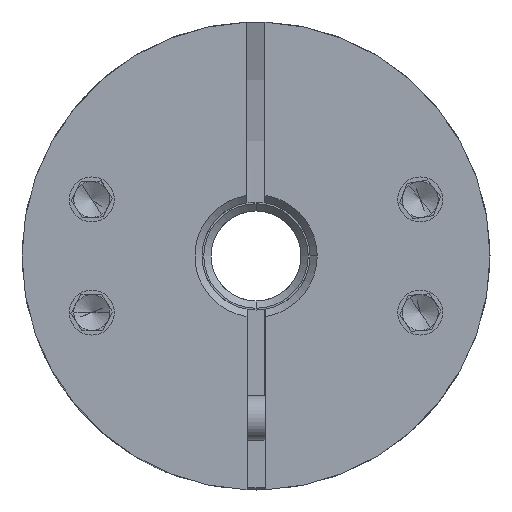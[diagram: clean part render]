
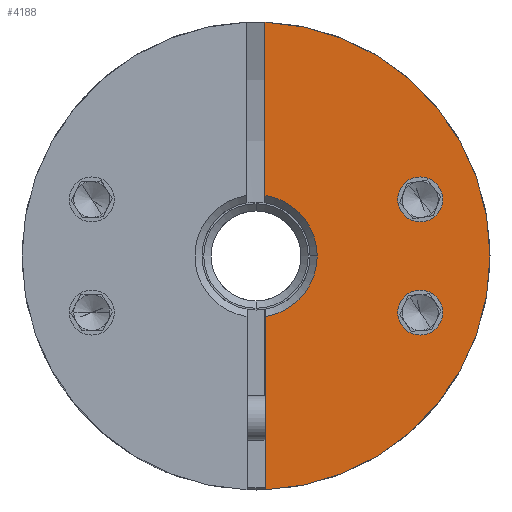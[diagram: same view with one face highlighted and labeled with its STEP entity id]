
A CAD part, front view. The second image highlights one B-rep face of the part: STEP entity #4188.
In plain terms, the highlighted planar face has unit normal (0, -1, 0).
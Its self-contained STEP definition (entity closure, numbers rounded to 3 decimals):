
#97 = ORIENTED_EDGE ( 'NONE', *, *, #1533, .T. ) ;
#435 = EDGE_CURVE ( 'NONE', #8124, #19663, #3960, .T. ) ;
#646 = VERTEX_POINT ( 'NONE', #15369 ) ;
#677 = ORIENTED_EDGE ( 'NONE', *, *, #14537, .T. ) ;
#786 = CARTESIAN_POINT ( 'NONE',  ( 9.63, -26.289, 3.142 ) ) ;
#1039 = FACE_BOUND ( 'NONE', #21388, .T. ) ;
#1363 = EDGE_CURVE ( 'NONE', #10590, #21803, #14868, .T. ) ;
#1533 = EDGE_CURVE ( 'NONE', #11754, #10590, #20388, .T. ) ;
#1634 = DIRECTION ( 'NONE',  ( 1., 0., 0. ) ) ;
#1780 = EDGE_CURVE ( 'NONE', #4828, #3157, #22002, .T. ) ;
#1945 = DIRECTION ( 'NONE',  ( 0., 1., 0. ) ) ;
#2082 = DIRECTION ( 'NONE',  ( 0., -1., 0. ) ) ;
#2331 = AXIS2_PLACEMENT_3D ( 'NONE', #15015, #7758, #4144 ) ;
#2782 = CARTESIAN_POINT ( 'NONE',  ( 2.255, -26.289, 3.363 ) ) ;
#3157 = VERTEX_POINT ( 'NONE', #2782 ) ;
#3283 = AXIS2_PLACEMENT_3D ( 'NONE', #19859, #11101, #18156 ) ;
#3960 = CIRCLE ( 'NONE', #10710, 1.25 ) ;
#4144 = DIRECTION ( 'NONE',  ( 1., 0., 0. ) ) ;
#4188 = ADVANCED_FACE ( 'NONE', ( #12826, #1039, #10881 ), #17696, .T. ) ;
#4450 = CARTESIAN_POINT ( 'NONE',  ( 12.13, -26.289, 3.142 ) ) ;
#4522 = EDGE_CURVE ( 'NONE', #19663, #8124, #21378, .T. ) ;
#4785 = EDGE_CURVE ( 'NONE', #20891, #21923, #9426, .T. ) ;
#4797 = CARTESIAN_POINT ( 'NONE',  ( 9.63, -26.289, -3.142 ) ) ;
#4828 = VERTEX_POINT ( 'NONE', #7964 ) ;
#4917 = DIRECTION ( 'NONE',  ( 0., -1., 0. ) ) ;
#5021 = CARTESIAN_POINT ( 'NONE',  ( 10.88, -26.289, -3.142 ) ) ;
#5140 = CARTESIAN_POINT ( 'NONE',  ( 1.755, -26.289, 0. ) ) ;
#6597 = CARTESIAN_POINT ( 'NONE',  ( 1.755, -26.289, 0. ) ) ;
#7244 = CIRCLE ( 'NONE', #14717, 3.4 ) ;
#7271 = DIRECTION ( 'NONE',  ( 0., 1., 0. ) ) ;
#7758 = DIRECTION ( 'NONE',  ( 0., 1., 0. ) ) ;
#7959 = ORIENTED_EDGE ( 'NONE', *, *, #4522, .T. ) ;
#7964 = CARTESIAN_POINT ( 'NONE',  ( 2.255, -26.289, 12.99 ) ) ;
#8124 = VERTEX_POINT ( 'NONE', #4797 ) ;
#8515 = DIRECTION ( 'NONE',  ( 1., 0., 0. ) ) ;
#8603 = CARTESIAN_POINT ( 'NONE',  ( 2.255, -26.289, 5. ) ) ;
#8614 = ORIENTED_EDGE ( 'NONE', *, *, #17367, .T. ) ;
#8666 = CARTESIAN_POINT ( 'NONE',  ( 1.755, -26.289, 0. ) ) ;
#8871 = DIRECTION ( 'NONE',  ( 1., 0., 0. ) ) ;
#8950 = DIRECTION ( 'NONE',  ( 0., -1., 0. ) ) ;
#9244 = ORIENTED_EDGE ( 'NONE', *, *, #1780, .T. ) ;
#9426 = CIRCLE ( 'NONE', #3283, 1.25 ) ;
#10372 = ORIENTED_EDGE ( 'NONE', *, *, #20196, .T. ) ;
#10590 = VERTEX_POINT ( 'NONE', #11338 ) ;
#10710 = AXIS2_PLACEMENT_3D ( 'NONE', #17956, #7271, #11041 ) ;
#10881 = FACE_BOUND ( 'NONE', #22502, .T. ) ;
#11041 = DIRECTION ( 'NONE',  ( 1., 0., 0. ) ) ;
#11101 = DIRECTION ( 'NONE',  ( 0., 1., 0. ) ) ;
#11276 = CARTESIAN_POINT ( 'NONE',  ( 12.13, -26.289, -3.142 ) ) ;
#11338 = CARTESIAN_POINT ( 'NONE',  ( 2.255, -26.289, -3.363 ) ) ;
#11637 = AXIS2_PLACEMENT_3D ( 'NONE', #16325, #1945, #14624 ) ;
#11754 = VERTEX_POINT ( 'NONE', #18498 ) ;
#11977 = EDGE_LOOP ( 'NONE', ( #9244, #16998, #97, #19331, #10372, #677 ) ) ;
#12034 = AXIS2_PLACEMENT_3D ( 'NONE', #14751, #2082, #20015 ) ;
#12826 = FACE_OUTER_BOUND ( 'NONE', #11977, .T. ) ;
#13211 = CIRCLE ( 'NONE', #11637, 1.25 ) ;
#13443 = EDGE_CURVE ( 'NONE', #3157, #11754, #7244, .T. ) ;
#14161 = DIRECTION ( 'NONE',  ( 0., 1., 0. ) ) ;
#14537 = EDGE_CURVE ( 'NONE', #646, #4828, #19436, .T. ) ;
#14559 = CARTESIAN_POINT ( 'NONE',  ( 2.255, -26.289, 5. ) ) ;
#14624 = DIRECTION ( 'NONE',  ( 1., 0., 0. ) ) ;
#14636 = DIRECTION ( 'NONE',  ( 0., 0., -1. ) ) ;
#14717 = AXIS2_PLACEMENT_3D ( 'NONE', #6597, #22328, #18803 ) ;
#14751 = CARTESIAN_POINT ( 'NONE',  ( 1.755, -26.289, 0. ) ) ;
#14868 = LINE ( 'NONE', #14559, #16803 ) ;
#15015 = CARTESIAN_POINT ( 'NONE',  ( 1.755, -26.289, 0. ) ) ;
#15369 = CARTESIAN_POINT ( 'NONE',  ( 14.755, -26.289, 0. ) ) ;
#15618 = DIRECTION ( 'NONE',  ( 0., 0., -1. ) ) ;
#16325 = CARTESIAN_POINT ( 'NONE',  ( 10.88, -26.289, 3.142 ) ) ;
#16605 = AXIS2_PLACEMENT_3D ( 'NONE', #5021, #14161, #1634 ) ;
#16771 = ORIENTED_EDGE ( 'NONE', *, *, #435, .T. ) ;
#16803 = VECTOR ( 'NONE', #14636, 1000. ) ;
#16998 = ORIENTED_EDGE ( 'NONE', *, *, #13443, .T. ) ;
#17367 = EDGE_CURVE ( 'NONE', #21923, #20891, #13211, .T. ) ;
#17696 = PLANE ( 'NONE',  #21448 ) ;
#17925 = ORIENTED_EDGE ( 'NONE', *, *, #4785, .T. ) ;
#17956 = CARTESIAN_POINT ( 'NONE',  ( 10.88, -26.289, -3.142 ) ) ;
#18062 = CIRCLE ( 'NONE', #12034, 13. ) ;
#18156 = DIRECTION ( 'NONE',  ( 1., 0., 0. ) ) ;
#18498 = CARTESIAN_POINT ( 'NONE',  ( 5.155, -26.289, 0. ) ) ;
#18803 = DIRECTION ( 'NONE',  ( 1., 0., 0. ) ) ;
#19010 = AXIS2_PLACEMENT_3D ( 'NONE', #8666, #4917, #8515 ) ;
#19331 = ORIENTED_EDGE ( 'NONE', *, *, #1363, .T. ) ;
#19436 = CIRCLE ( 'NONE', #19010, 13. ) ;
#19549 = VECTOR ( 'NONE', #15618, 1000. ) ;
#19663 = VERTEX_POINT ( 'NONE', #11276 ) ;
#19859 = CARTESIAN_POINT ( 'NONE',  ( 10.88, -26.289, 3.142 ) ) ;
#20015 = DIRECTION ( 'NONE',  ( 1., 0., 0. ) ) ;
#20196 = EDGE_CURVE ( 'NONE', #21803, #646, #18062, .T. ) ;
#20388 = CIRCLE ( 'NONE', #2331, 3.4 ) ;
#20891 = VERTEX_POINT ( 'NONE', #786 ) ;
#21378 = CIRCLE ( 'NONE', #16605, 1.25 ) ;
#21388 = EDGE_LOOP ( 'NONE', ( #17925, #8614 ) ) ;
#21448 = AXIS2_PLACEMENT_3D ( 'NONE', #5140, #8950, #8871 ) ;
#21803 = VERTEX_POINT ( 'NONE', #22969 ) ;
#21923 = VERTEX_POINT ( 'NONE', #4450 ) ;
#22002 = LINE ( 'NONE', #8603, #19549 ) ;
#22328 = DIRECTION ( 'NONE',  ( 0., 1., 0. ) ) ;
#22502 = EDGE_LOOP ( 'NONE', ( #16771, #7959 ) ) ;
#22969 = CARTESIAN_POINT ( 'NONE',  ( 2.255, -26.289, -12.99 ) ) ;
